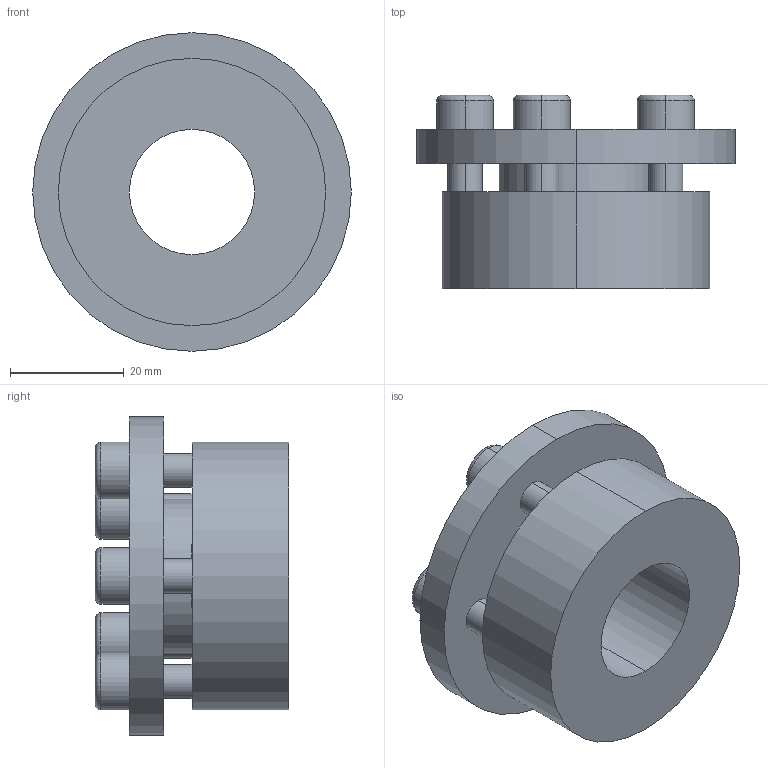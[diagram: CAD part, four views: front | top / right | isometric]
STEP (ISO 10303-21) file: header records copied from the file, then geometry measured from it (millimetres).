
FILE_DESCRIPTION (( 'STEP AP203' ), '1' );
FILE_NAME ('PL-H6 22-47.STEP', '2021-10-23T01:34:30', ( '' ), ( '' ), 'SwSTEP 2.0', 'SolidWorks 2018', '' );
FILE_SCHEMA (( 'CONFIG_CONTROL_DESIGN' ));
Length unit declared in the file: millimetre
Products named in the file (1): PL-H6 22-47
Bounding box: 56 x 34 x 56 mm (x, y, z)
Volume: 39197.3 mm3; surface area: 13736.7 mm2
Topology: 1 solids, 1 shells, 82 faces, 194 edges, 126 vertices
Faces by surface type: plane 44, cylinder 28, torus 10
Entity records: 2475 total; most frequent: DIRECTION 436, CARTESIAN_POINT 403, ORIENTED_EDGE 388, EDGE_CURVE 194, AXIS2_PLACEMENT_3D 159, VERTEX_POINT 126, VECTOR 118, LINE 118
